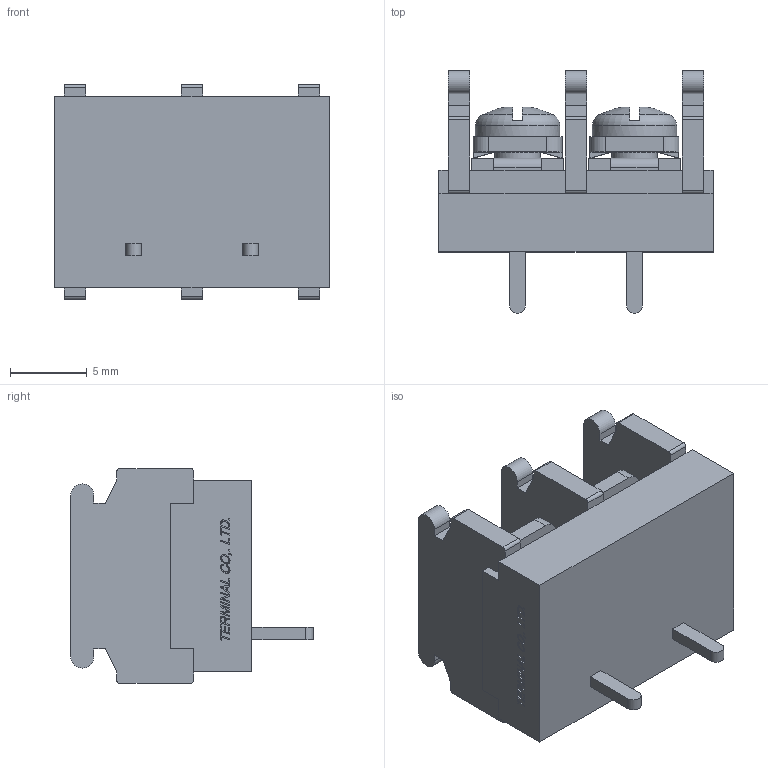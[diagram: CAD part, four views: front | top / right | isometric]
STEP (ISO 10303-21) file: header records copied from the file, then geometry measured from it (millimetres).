
FILE_DESCRIPTION(/* description */ ('Alibre Inc.'),/* implementation_level */ '2;1');
FILE_NAME(/* name */ 'export0',/* time_stamp */ '2015-10-23T19:23:48+09:00',/* author */ (''),/* organization */ (''),/* preprocessor_version */ 'ST-DEVELOPER v14',/* originating_system */ 'Alibre',/* authorisation */ '');
FILE_SCHEMA (('CONFIG_CONTROL_DESIGN'));
Length unit declared in the file: centimetre
Products named in the file (1): ID_1
Bounding box: 17.86 x 15.8 x 14 mm (x, y, z)
Volume: 1719 mm3; surface area: 1769.4 mm2
Topology: 1 solids, 1 shells, 630 faces, 1710 edges, 1130 vertices
Faces by surface type: plane 472, bspline 104, cylinder 38, cone 8, torus 4, sphere 4
Full cylindrical faces by diameter (mm): 3 x2, 5.5 x2
Entity records: 19123 total; most frequent: CARTESIAN_POINT 4521, ORIENTED_EDGE 3388, DIRECTION 2120, EDGE_CURVE 1694, VECTOR 1288, LINE 1288, VERTEX_POINT 1122, EDGE_LOOP 686
